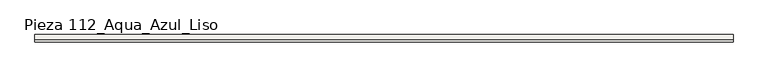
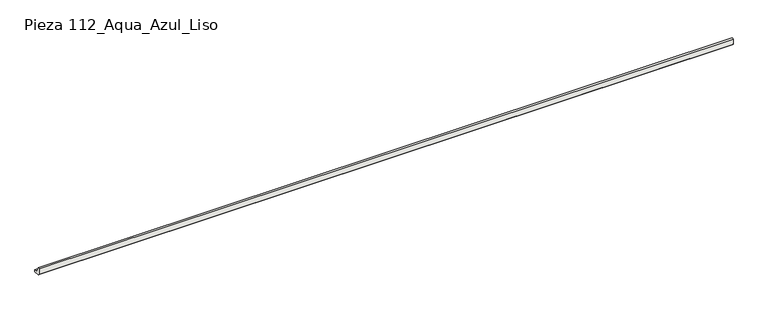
"""IFC4 building model written with IfcOpenShell, lengths in millimetres: slab geometry, ROSA GRES_112 : Pieza 112_Aqua_Azul_Liso."""

from ifc_helpers import new_model, si_unit, point, frame, frame_2d, origin, place, context, project, spatial, polyline, circle_curve, trimmed, segment, composite_curve, outline, extrude, source, transform, mapped, element, save


def pieza_112_aqua_azul_liso_9c2345ba(model_context):
    return source(origin(), model_context, "Body", "SweptSolid", [
        extrude(outline(composite_curve([segment(polyline([(0.0, 8.7114978), (0.0, 40.0), (9.9734114, 40.0)]), True, "CONTINUOUS"), segment(trimmed(circle_curve(frame_2d((39.9955547, 39.9955547)), 30.0221435), [point((9.9734114, 40.0))], [point((40.0, 9.9734114))], True, "CARTESIAN"), True, "CONTINUOUS"), segment(polyline([(40.0, 9.9734114), (40.0, 0.0), (8.7114978, 0.0), (0.0, 8.7114978)]), True, "CONTINUOUS")], self_intersect=False)), frame((0.0, 0.0, 0.0), z_axis=(1.0, 0.0, 0.0), x_axis=(0.0, 1.0, 0.0)), (0.0, 0.0, 1.0), 3888.1542381),
    ])


if __name__ == "__main__":
    model = new_model("IFC4")
    model_context = context("Model", 3, world=origin())
    ifc_project = project(units=[si_unit("LENGTHUNIT", "METRE", prefix="MILLI")], contexts=[model_context])
    site = spatial("IfcSite", under=ifc_project)
    building = spatial("IfcBuilding", under=site)
    placement = place(None, origin())
    pieza_112_aqua_azul_liso_shape = pieza_112_aqua_azul_liso_9c2345ba(model_context)
    element("IfcSlab", 1, ObjectType="ROSA GRES_112 : Pieza 112_Aqua_Azul_Liso", at=placement, inside=building, context=model_context, shape_type="MappedRepresentation", body=[
        mapped(pieza_112_aqua_azul_liso_shape, transform((0.0, 0.0, 0.0), x_axis=(1.0, 0.0, 0.0), y_axis=(0.0, 1.0, 0.0), z_axis=(0.0, 0.0, 1.0))),
    ])
    save(model, "model.ifc")
